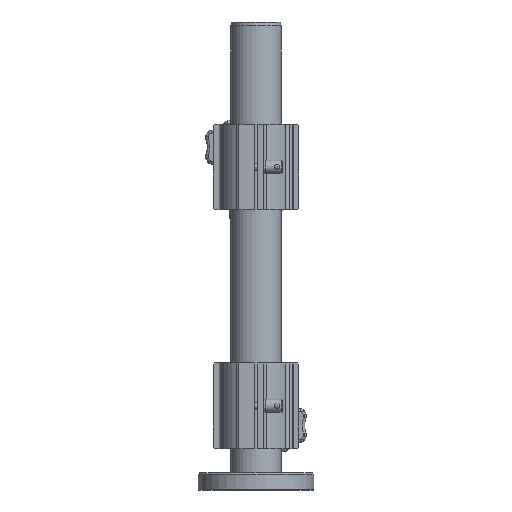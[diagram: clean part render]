
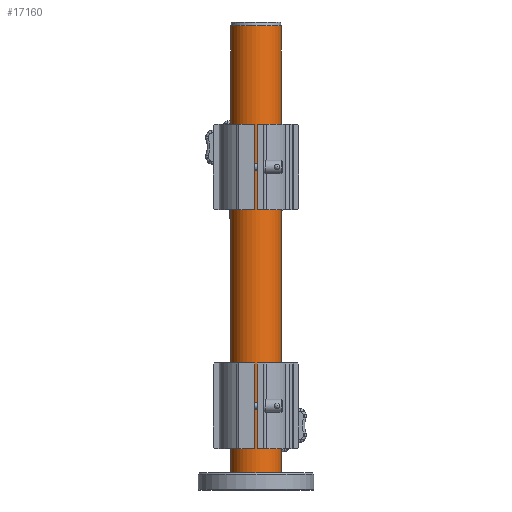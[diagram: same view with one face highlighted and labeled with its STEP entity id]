
A CAD part, front view. The second image highlights one B-rep face of the part: STEP entity #17160.
In plain terms, the highlighted cylindrical face has radius 19.05 mm (diameter 38.1 mm), a full revolution.
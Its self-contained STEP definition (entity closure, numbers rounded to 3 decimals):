
#3009=CYLINDRICAL_SURFACE('',#18365,19.05);
#3437=FACE_BOUND('',#5116,.T.);
#3953=FACE_OUTER_BOUND('',#5115,.T.);
#5115=EDGE_LOOP('',(#11625));
#5116=EDGE_LOOP('',(#11626));
#6675=CIRCLE('',#18334,19.05);
#6690=CIRCLE('',#18364,19.05);
#7687=VERTEX_POINT('',#25785);
#7702=VERTEX_POINT('',#25830);
#9299=EDGE_CURVE('',#7687,#7687,#6675,.T.);
#9314=EDGE_CURVE('',#7702,#7702,#6690,.T.);
#11625=ORIENTED_EDGE('',*,*,#9314,.F.);
#11626=ORIENTED_EDGE('',*,*,#9299,.F.);
#17160=ADVANCED_FACE('',(#3953,#3437),#3009,.T.);
#18334=AXIS2_PLACEMENT_3D('',#25786,#20531,#20532);
#18364=AXIS2_PLACEMENT_3D('',#25831,#20591,#20592);
#18365=AXIS2_PLACEMENT_3D('',#25832,#20593,#20594);
#20531=DIRECTION('center_axis',(0.,0.,-1.));
#20532=DIRECTION('ref_axis',(-1.,0.,0.));
#20591=DIRECTION('center_axis',(0.,0.,
1.));
#20592=DIRECTION('ref_axis',(-1.,0.,0.));
#20593=DIRECTION('center_axis',(0.,0.,
1.));
#20594=DIRECTION('ref_axis',(-1.,0.,0.));
#25785=CARTESIAN_POINT('',(19.05,0.,13.));
#25786=CARTESIAN_POINT('Origin',(0.,0.,13.));
#25830=CARTESIAN_POINT('',(19.05,0.,352.6));
#25831=CARTESIAN_POINT('Origin',(0.,0.,
352.6));
#25832=CARTESIAN_POINT('Origin',(0.,0.,
11.));
